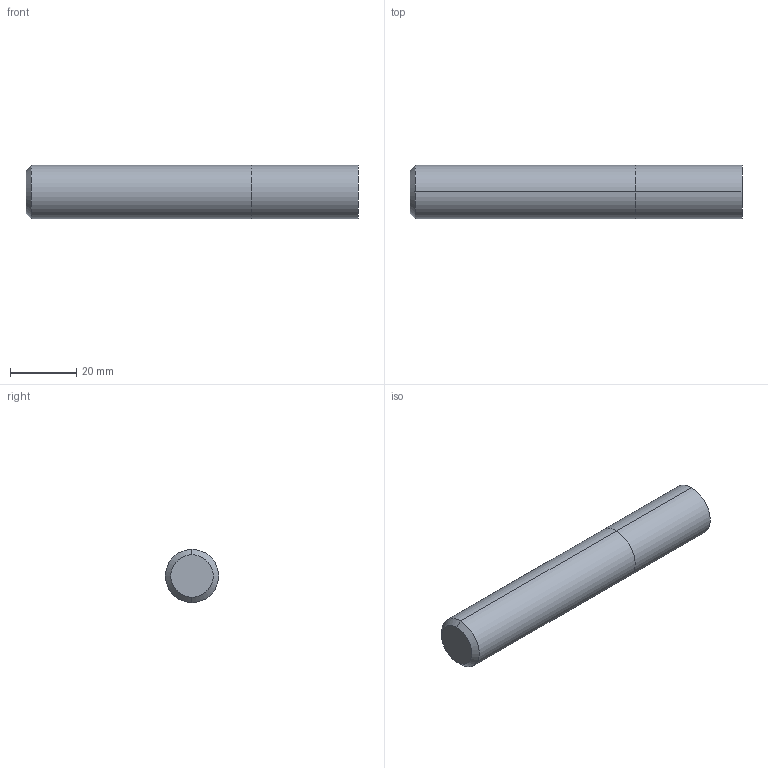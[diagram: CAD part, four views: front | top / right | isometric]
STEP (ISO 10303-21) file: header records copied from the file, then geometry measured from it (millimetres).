
FILE_DESCRIPTION (( 'STEP AP214' ), '1' );
FILE_NAME ('G9F45160.STEP', '2018-07-03T07:14:02', ( '' ), ( '' ), 'SwSTEP 2.0', 'SolidWorks 2014', '' );
FILE_SCHEMA (( 'AUTOMOTIVE_DESIGN' ));
Length unit declared in the file: millimetre
Products named in the file (1): G9F45160
Bounding box: 100 x 16 x 16 mm (x, y, z)
Volume: 20046.1 mm3; surface area: 5780.4 mm2
Topology: 2 solids, 2 shells, 10 faces, 16 edges, 10 vertices
Faces by surface type: cylinder 4, plane 4, cone 2
Entity records: 321 total; most frequent: DIRECTION 48, CARTESIAN_POINT 37, ORIENTED_EDGE 32, AXIS2_PLACEMENT_3D 21, EDGE_CURVE 16, ADVANCED_FACE 10, VERTEX_POINT 10, CIRCLE 10
